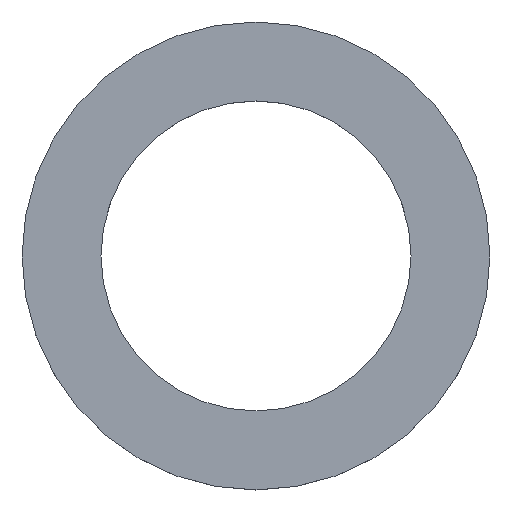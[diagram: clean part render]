
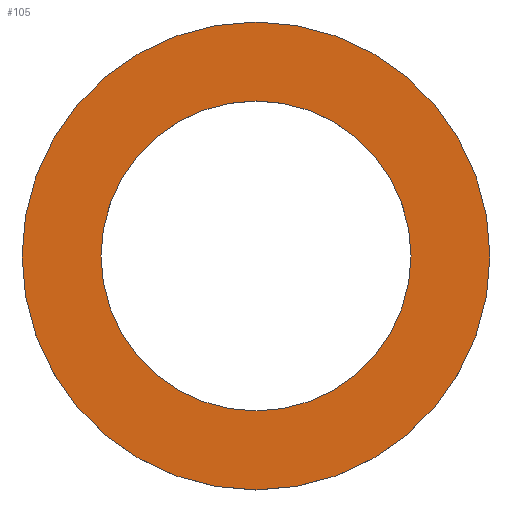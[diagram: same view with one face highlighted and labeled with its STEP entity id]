
A CAD part, top view. The second image highlights one B-rep face of the part: STEP entity #105.
In plain terms, the highlighted planar face has unit normal (0, 0, 1).
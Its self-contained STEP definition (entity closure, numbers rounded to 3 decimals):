
#21 = EDGE_CURVE('',#22,#22,#24,.T.);
#22 = VERTEX_POINT('',#23);
#23 = CARTESIAN_POINT('',(4.,0.,0.5));
#24 = SURFACE_CURVE('',#25,(#30,#42),.PCURVE_S1.);
#25 = CIRCLE('',#26,4.);
#26 = AXIS2_PLACEMENT_3D('',#27,#28,#29);
#27 = CARTESIAN_POINT('',(0.,0.,0.5));
#28 = DIRECTION('',(0.,0.,1.));
#29 = DIRECTION('',(1.,0.,-0.));
#30 = PCURVE('',#31,#36);
#31 = CYLINDRICAL_SURFACE('',#32,4.);
#32 = AXIS2_PLACEMENT_3D('',#33,#34,#35);
#33 = CARTESIAN_POINT('',(0.,0.,0.));
#34 = DIRECTION('',(0.,0.,1.));
#35 = DIRECTION('',(1.,0.,-0.));
#36 = DEFINITIONAL_REPRESENTATION('',(#37),#41);
#37 = LINE('',#38,#39);
#38 = CARTESIAN_POINT('',(0.,0.5));
#39 = VECTOR('',#40,1.);
#40 = DIRECTION('',(1.,0.));
#41 = ( GEOMETRIC_REPRESENTATION_CONTEXT(2) 
PARAMETRIC_REPRESENTATION_CONTEXT() REPRESENTATION_CONTEXT('2D SPACE',''
  ) );
#42 = PCURVE('',#43,#48);
#43 = PLANE('',#44);
#44 = AXIS2_PLACEMENT_3D('',#45,#46,#47);
#45 = CARTESIAN_POINT('',(0.,0.,0.5));
#46 = DIRECTION('',(0.,0.,1.));
#47 = DIRECTION('',(1.,0.,-0.));
#48 = DEFINITIONAL_REPRESENTATION('',(#49),#53);
#49 = CIRCLE('',#50,4.);
#50 = AXIS2_PLACEMENT_2D('',#51,#52);
#51 = CARTESIAN_POINT('',(0.,0.));
#52 = DIRECTION('',(1.,0.));
#53 = ( GEOMETRIC_REPRESENTATION_CONTEXT(2) 
PARAMETRIC_REPRESENTATION_CONTEXT() REPRESENTATION_CONTEXT('2D SPACE',''
  ) );
#105 = ADVANCED_FACE('',(#106,#109),#43,.T.);
#106 = FACE_BOUND('',#107,.T.);
#107 = EDGE_LOOP('',(#108));
#108 = ORIENTED_EDGE('',*,*,#21,.T.);
#109 = FACE_BOUND('',#110,.T.);
#110 = EDGE_LOOP('',(#111));
#111 = ORIENTED_EDGE('',*,*,#112,.F.);
#112 = EDGE_CURVE('',#113,#113,#115,.T.);
#113 = VERTEX_POINT('',#114);
#114 = CARTESIAN_POINT('',(2.65,0.,0.5));
#115 = SURFACE_CURVE('',#116,(#121,#128),.PCURVE_S1.);
#116 = CIRCLE('',#117,2.65);
#117 = AXIS2_PLACEMENT_3D('',#118,#119,#120);
#118 = CARTESIAN_POINT('',(0.,0.,0.5));
#119 = DIRECTION('',(0.,0.,1.));
#120 = DIRECTION('',(1.,0.,-0.));
#121 = PCURVE('',#43,#122);
#122 = DEFINITIONAL_REPRESENTATION('',(#123),#127);
#123 = CIRCLE('',#124,2.65);
#124 = AXIS2_PLACEMENT_2D('',#125,#126);
#125 = CARTESIAN_POINT('',(0.,0.));
#126 = DIRECTION('',(1.,0.));
#127 = ( GEOMETRIC_REPRESENTATION_CONTEXT(2) 
PARAMETRIC_REPRESENTATION_CONTEXT() REPRESENTATION_CONTEXT('2D SPACE',''
  ) );
#128 = PCURVE('',#129,#134);
#129 = CYLINDRICAL_SURFACE('',#130,2.65);
#130 = AXIS2_PLACEMENT_3D('',#131,#132,#133);
#131 = CARTESIAN_POINT('',(0.,0.,-0.1));
#132 = DIRECTION('',(0.,0.,1.));
#133 = DIRECTION('',(1.,0.,-0.));
#134 = DEFINITIONAL_REPRESENTATION('',(#135),#139);
#135 = LINE('',#136,#137);
#136 = CARTESIAN_POINT('',(0.,0.6));
#137 = VECTOR('',#138,1.);
#138 = DIRECTION('',(1.,0.));
#139 = ( GEOMETRIC_REPRESENTATION_CONTEXT(2) 
PARAMETRIC_REPRESENTATION_CONTEXT() REPRESENTATION_CONTEXT('2D SPACE',''
  ) );
